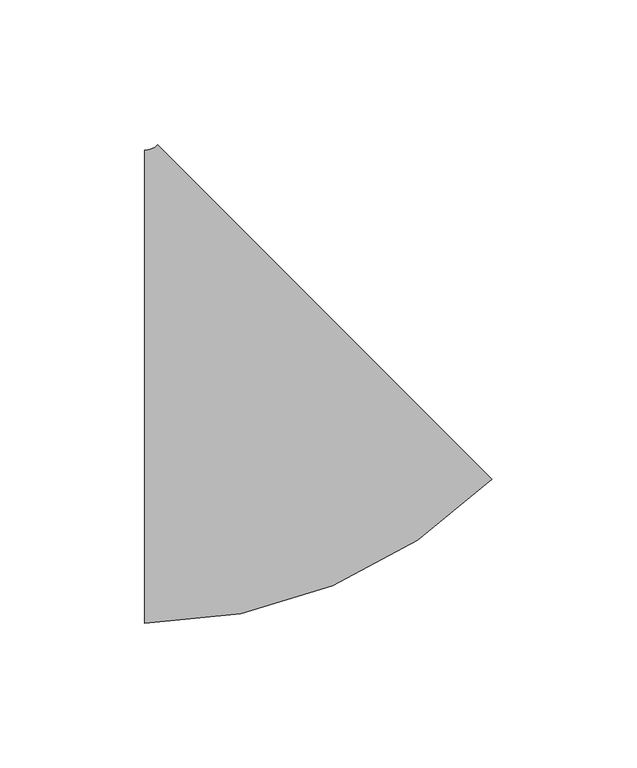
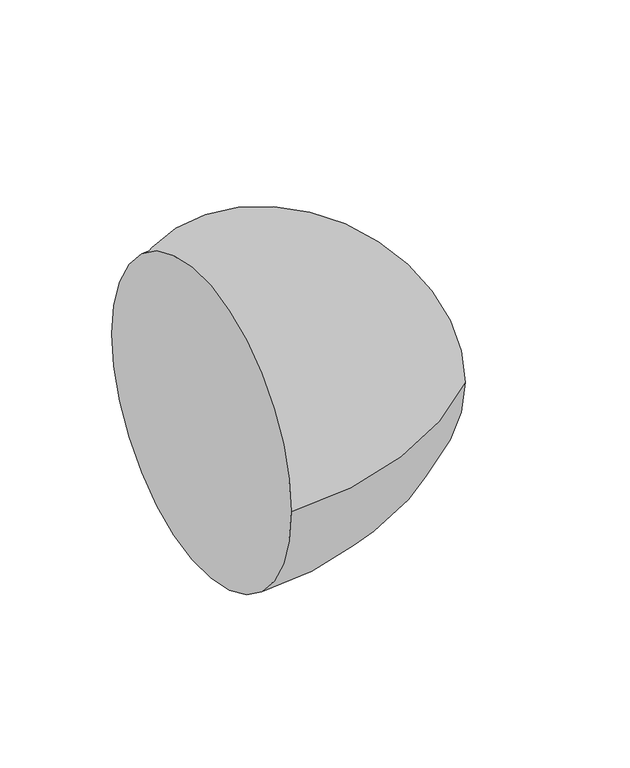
"""IFC4 building model written with IfcOpenShell, lengths in millimetres: pipe fitting geometry, M_Codo - Genérico : Estándar."""

from ifc_helpers import new_model, si_unit, point, frame, origin, place, context, project, spatial, circle_curve, ellipse_curve, trimmed, source, transform, mapped, element, save
from ifc_brep_helpers import plane_surface, revolved_surface, advanced_brep


def pipe_fitting_0ea30f17(model_context):
    return source(origin(), model_context, "Body", "AdvancedBrep", [
        advanced_brep(
        [(-36.4227716, -81.5875, 0.0), (-36.4227716, 81.5875, 0.0), (83.4445405, -31.9397419, 0.0), (-31.9328295, 83.447186, 0.0)],
        [
            (0, 1, circle_curve(frame((-36.4227716, 0.0, 0.0), z_axis=(-1.0, 0.0, 0.0), x_axis=(0.0, 1.0, 0.0)), 81.5875)),
            (1, 0, circle_curve(frame((-36.4227716, 0.0, 0.0), z_axis=(-1.0, 0.0, 0.0), x_axis=(0.0, 1.0, 0.0)), 81.5875)),
            (2, 3, circle_curve(frame((25.7558555, 25.7537221, 0.0), z_axis=(0.7071360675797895, 0.7070774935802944, 0.0), x_axis=(-0.7070774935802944, 0.7071360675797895, 0.0)), 81.5875)),
            (3, 2, circle_curve(frame((25.7558555, 25.7537221, 0.0), z_axis=(0.7071360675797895, 0.7070774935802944, 0.0), x_axis=(-0.7070774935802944, 0.7071360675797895, 0.0)), 81.5875)),
            (3, 1, circle_curve(frame((-36.4227716, 87.9375, 0.0), z_axis=(0.0, 0.0, -1.0), x_axis=(0.0, -1.0, 0.0)), 6.35)),
            (0, 2, circle_curve(frame((-36.4227716, 87.9375, 0.0), z_axis=(0.0, 0.0, 1.0), x_axis=(0.0, -1.0, 0.0)), 169.525)),
        ],
        [
            plane_surface(frame((-36.4227716, 0.0, 0.0), z_axis=(-1.0, 0.0, 0.0), x_axis=(0.0, 0.0, 1.0))),
            plane_surface(frame((25.7558555, 25.7537221, 0.0), z_axis=(0.7071360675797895, 0.7070774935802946, 0.0), x_axis=(0.0, 0.0, 1.0))),
            revolved_surface(trimmed(ellipse_curve(frame((-36.4227716, 0.0, 0.0), z_axis=(-1.0, 0.0, 0.0), x_axis=(0.0, 1.0, 0.0)), 81.5875, 81.5875), [point((-36.4227716, -81.5875, 0.0))], [point((-36.4227716, 81.5875, 0.0))], True, "CARTESIAN"), (-36.4227716, 87.9375, 0.0), (0.0, 0.0, 1.0)),
            revolved_surface(trimmed(ellipse_curve(frame((-36.4227716, 0.0, 0.0), z_axis=(-1.0, 0.0, 0.0), x_axis=(0.0, 1.0, 0.0)), 81.5875, 81.5875), [point((-36.4227716, 81.5875, 0.0))], [point((-36.4227716, -81.5875, 0.0))], True, "CARTESIAN"), (-36.4227716, 87.9375, 0.0), (0.0, 0.0, 1.0)),
        ],
        [
            (0, [[1, 2]]),
            (1, [[3, 4]]),
            (2, [[5, -1, 6, -4]]),
            (3, [[-6, -2, -5, -3]]),
        ],
    ),
    ])


if __name__ == "__main__":
    model = new_model("IFC4")
    model_context = context("Model", 3, world=origin())
    ifc_project = project(units=[si_unit("LENGTHUNIT", "METRE", prefix="MILLI")], contexts=[model_context])
    site = spatial("IfcSite", under=ifc_project)
    building = spatial("IfcBuilding", under=site)
    placement = place(None, origin())
    pipe_fitting_shape = pipe_fitting_0ea30f17(model_context)
    element("IfcPipeFitting", 1, ObjectType="M_Codo - Genérico : Estándar", at=placement, inside=building, context=model_context, shape_type="MappedRepresentation", body=[
        mapped(pipe_fitting_shape, transform((0.0, 0.0, 0.0), x_axis=(1.0, 0.0, 0.0), y_axis=(0.0, 1.0, 0.0), z_axis=(0.0, 0.0, 1.0))),
    ])
    save(model, "model.ifc")
